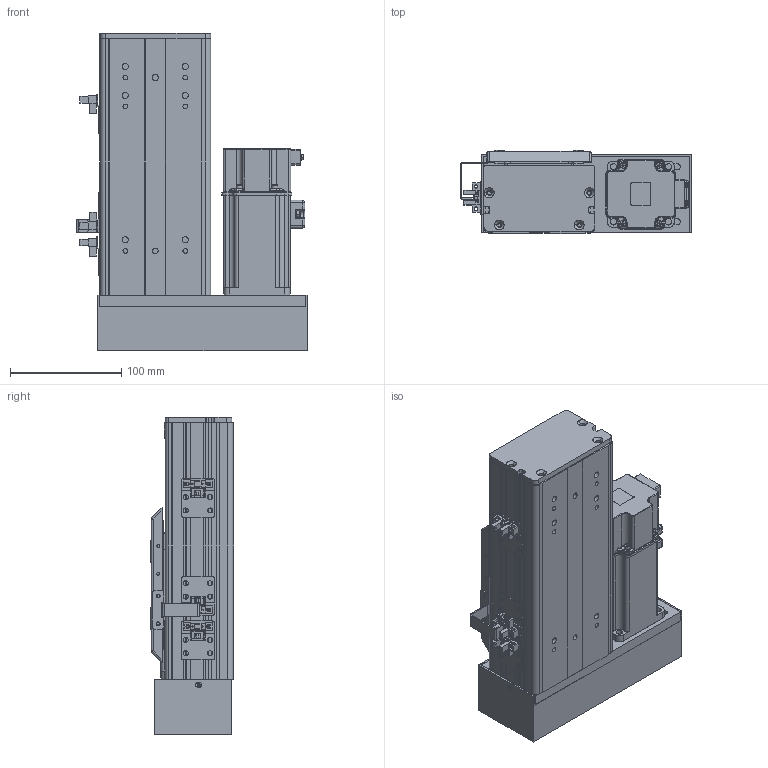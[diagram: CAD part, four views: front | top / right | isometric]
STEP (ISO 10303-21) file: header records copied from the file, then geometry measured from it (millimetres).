
FILE_DESCRIPTION (( 'STEP AP203' ), '1' );
FILE_NAME ('BOSW100-50-1610-1P-LM-M400W-O-S3（方程式2016）.step', '2020-10-10T06:50:23', ( '' ), ( '' ), 'SwSTEP 2.0', 'SolidWorks 2016', '' );
FILE_SCHEMA (( 'CONFIG_CONTROL_DESIGN' ));
Length unit declared in the file: millimetre
Products named in the file (14): BOSW-100-綴裔啣; BOSW-100-1P-DM-50諦誧芞; BOSW-100-1P-DM-宽轨-侧板-50客户图纸; S400W(SMA-L040); BOSW&TW-100-俋离覜茼え; 新结构AIMSW-100-1P-宽&高轨共用-滑动座上组件; AIMS(W)-100-LM&RM-肮祭謫欶; BOSW&TW-100-詩湍揤沭(陔賦凳); 俋境嫖覜嘐隅啣; BOSW-100-1P-DM-宽轨-钢带-50客户图纸; BOSW100-50-1610-1P-LM-M400W-O-S3（方程式2016）; boS-100-LM&RM-三菱M400W马达板-宽轨; BOSW&TW-100-1P-賑雄釱欶; 放大器内置U型微型光电传感器PM-L65
Assembly tree (19 placements, depth 2):
  BOSW100-50-1610-1P-LM-M400W-O-S3（方程式2016）
    BOSW-100-1P-DM-50諦誧芞
    BOSW-100-綴裔啣
    新结构AIMSW-100-1P-宽&高轨共用-滑动座上组件
    S400W(SMA-L040)
    BOSW&TW-100-詩湍揤沭(陔賦凳)  x2
    BOSW&TW-100-1P-賑雄釱欶
    BOSW&TW-100-俋离覜茼え
    俋境嫖覜嘐隅啣  x3
    放大器内置U型微型光电传感器PM-L65  x3
    BOSW-100-1P-DM-宽轨-侧板-50客户图纸  x2
    BOSW-100-1P-DM-宽轨-钢带-50客户图纸
    AIMS(W)-100-LM&RM-肮祭謫欶
    boS-100-LM&RM-三菱M400W马达板-宽轨
Bounding box: 207.9 x 75 x 286 mm (x, y, z)
Volume: 881297.3 mm3; surface area: 461416 mm2
Topology: 19 solids, 20 shells, 2479 faces, 6525 edges, 4159 vertices
Faces by surface type: plane 1235, cylinder 758, bspline 271, cone 167, torus 36, sphere 12
Entity records: 67528 total; most frequent: CARTESIAN_POINT 20398, ORIENTED_EDGE 9590, DIRECTION 9255, EDGE_CURVE 4795, AXIS2_PLACEMENT_3D 3259, VERTEX_POINT 3061, LINE 2737, VECTOR 2737
